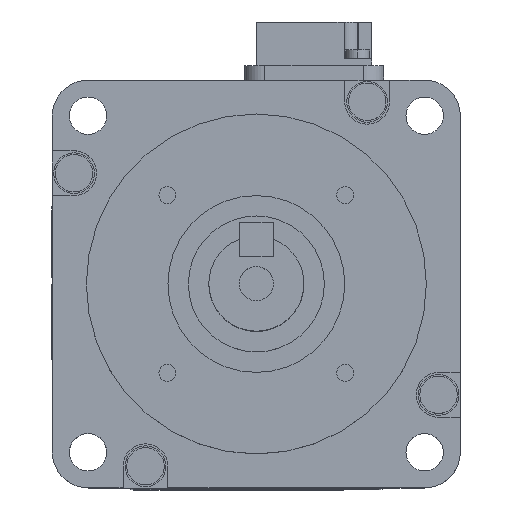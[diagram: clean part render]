
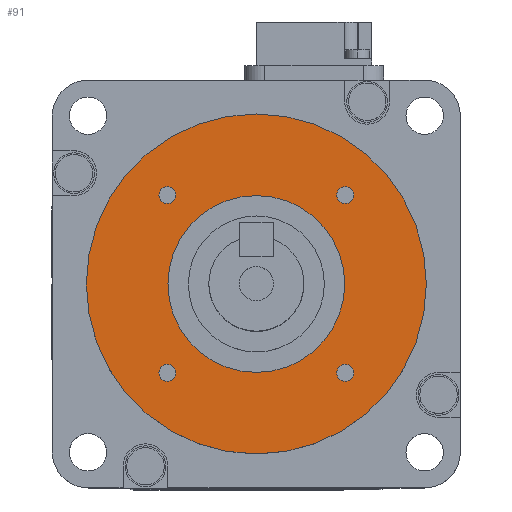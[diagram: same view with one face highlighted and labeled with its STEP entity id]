
A CAD part, top view. The second image highlights one B-rep face of the part: STEP entity #91.
In plain terms, the highlighted planar face has unit normal (0, 0, 1).
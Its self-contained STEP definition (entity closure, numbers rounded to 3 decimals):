
#37 = ORIENTED_EDGE ( 'NONE', *, *, #38, .F. ) ;
#38 = EDGE_CURVE ( 'NONE', #15011, #14934, #3901, .T. ) ;
#68 = EDGE_CURVE ( 'NONE', #15122, #14968, #3910, .T. ) ;
#91 = ADVANCED_FACE ( 'NONE', ( #3987, #3986, #3985, #3984, #3983, #3982 ), #3981, .T. ) ;
#157 = EDGE_LOOP ( 'NONE', ( #1706, #1353 ) ) ;
#174 = ORIENTED_EDGE ( 'NONE', *, *, #5115, .T. ) ;
#175 = ORIENTED_EDGE ( 'NONE', *, *, #176, .T. ) ;
#176 = EDGE_CURVE ( 'NONE', #5119, #5116, #4151, .T. ) ;
#188 = EDGE_LOOP ( 'NONE', ( #175, #174 ) ) ;
#199 = ORIENTED_EDGE ( 'NONE', *, *, #15314, .F. ) ;
#299 = DIRECTION ( 'NONE',  ( 0., 1., 0. ) ) ;
#300 = DIRECTION ( 'NONE',  ( 0., 0., 1. ) ) ;
#301 = CARTESIAN_POINT ( 'NONE',  ( -13.081, 13.081, 3. ) ) ;
#302 = AXIS2_PLACEMENT_3D ( 'NONE', #301, #300, #299 ) ;
#303 = CIRCLE ( 'NONE', #302, 1.25 ) ;
#921 = ORIENTED_EDGE ( 'NONE', *, *, #928, .F. ) ;
#928 = EDGE_CURVE ( 'NONE', #15340, #16107, #4252, .T. ) ;
#931 = ORIENTED_EDGE ( 'NONE', *, *, #16218, .F. ) ;
#948 = EDGE_LOOP ( 'NONE', ( #921, #199 ) ) ;
#1141 = ORIENTED_EDGE ( 'NONE', *, *, #1151, .F. ) ;
#1151 = EDGE_CURVE ( 'NONE', #16089, #15226, #4290, .T. ) ;
#1181 = ORIENTED_EDGE ( 'NONE', *, *, #15020, .F. ) ;
#1182 = EDGE_LOOP ( 'NONE', ( #1141, #931 ) ) ;
#1330 = EDGE_CURVE ( 'NONE', #5192, #5215, #4566, .T. ) ;
#1353 = ORIENTED_EDGE ( 'NONE', *, *, #1330, .F. ) ;
#1706 = ORIENTED_EDGE ( 'NONE', *, *, #5217, .F. ) ;
#3897 = DIRECTION ( 'NONE',  ( -1., 0., 0. ) ) ;
#3898 = DIRECTION ( 'NONE',  ( 0., 0., 1. ) ) ;
#3899 = CARTESIAN_POINT ( 'NONE',  ( -13.081, -13.081, 3. ) ) ;
#3900 = AXIS2_PLACEMENT_3D ( 'NONE', #3899, #3898, #3897 ) ;
#3901 = CIRCLE ( 'NONE', #3900, 1.25 ) ;
#3907 = DIRECTION ( 'NONE',  ( 0., 0., 1. ) ) ;
#3908 = CARTESIAN_POINT ( 'NONE',  ( 13.081, -13.081, 3. ) ) ;
#3909 = AXIS2_PLACEMENT_3D ( 'NONE', #3908, #3907, #3969 ) ;
#3910 = CIRCLE ( 'NONE', #3909, 1.25 ) ;
#3969 = DIRECTION ( 'NONE',  ( 0., -1., 0. ) ) ;
#3977 = DIRECTION ( 'NONE',  ( 1., 0., 0. ) ) ;
#3978 = DIRECTION ( 'NONE',  ( 0., 0., 1. ) ) ;
#3979 = CARTESIAN_POINT ( 'NONE',  ( 0., 25., 3. ) ) ;
#3980 = AXIS2_PLACEMENT_3D ( 'NONE', #3979, #3978, #3977 ) ;
#3981 = PLANE ( 'NONE',  #3980 ) ;
#3982 = FACE_OUTER_BOUND ( 'NONE', #157, .T. ) ;
#3983 = FACE_BOUND ( 'NONE', #188, .T. ) ;
#3984 = FACE_BOUND ( 'NONE', #948, .T. ) ;
#3985 = FACE_BOUND ( 'NONE', #1182, .T. ) ;
#3986 = FACE_BOUND ( 'NONE', #16416, .T. ) ;
#3987 = FACE_BOUND ( 'NONE', #16483, .T. ) ;
#4147 = DIRECTION ( 'NONE',  ( -1., 0., 0. ) ) ;
#4148 = DIRECTION ( 'NONE',  ( 0., 0., -1. ) ) ;
#4149 = CARTESIAN_POINT ( 'NONE',  ( 0., 0., 3. ) ) ;
#4150 = AXIS2_PLACEMENT_3D ( 'NONE', #4149, #4148, #4147 ) ;
#4151 = CIRCLE ( 'NONE', #4150, 13. ) ;
#4248 = DIRECTION ( 'NONE',  ( 1., 0., 0. ) ) ;
#4249 = DIRECTION ( 'NONE',  ( 0., 0., 1. ) ) ;
#4250 = CARTESIAN_POINT ( 'NONE',  ( 13.081, 13.081, 3. ) ) ;
#4251 = AXIS2_PLACEMENT_3D ( 'NONE', #4250, #4249, #4248 ) ;
#4252 = CIRCLE ( 'NONE', #4251, 1.25 ) ;
#4286 = DIRECTION ( 'NONE',  ( 0., 1., 0. ) ) ;
#4287 = DIRECTION ( 'NONE',  ( 0., 0., 1. ) ) ;
#4288 = CARTESIAN_POINT ( 'NONE',  ( -13.081, 13.081, 3. ) ) ;
#4289 = AXIS2_PLACEMENT_3D ( 'NONE', #4288, #4287, #4286 ) ;
#4290 = CIRCLE ( 'NONE', #4289, 1.25 ) ;
#4562 = DIRECTION ( 'NONE',  ( -1., 0., 0. ) ) ;
#4563 = DIRECTION ( 'NONE',  ( 0., 0., -1. ) ) ;
#4564 = CARTESIAN_POINT ( 'NONE',  ( 0., 0., 3. ) ) ;
#4565 = AXIS2_PLACEMENT_3D ( 'NONE', #4564, #4563, #4562 ) ;
#4566 = CIRCLE ( 'NONE', #4565, 25. ) ;
#5115 = EDGE_CURVE ( 'NONE', #5116, #5119, #9585, .T. ) ;
#5116 = VERTEX_POINT ( 'NONE', #9579 ) ;
#5119 = VERTEX_POINT ( 'NONE', #9644 ) ;
#5192 = VERTEX_POINT ( 'NONE', #9732 ) ;
#5215 = VERTEX_POINT ( 'NONE', #9758 ) ;
#5217 = EDGE_CURVE ( 'NONE', #5215, #5192, #9757, .T. ) ;
#9579 = CARTESIAN_POINT ( 'NONE',  ( 13., 0., 3. ) ) ;
#9581 = DIRECTION ( 'NONE',  ( -1., 0., 0. ) ) ;
#9582 = DIRECTION ( 'NONE',  ( 0., 0., -1. ) ) ;
#9583 = CARTESIAN_POINT ( 'NONE',  ( 0., 0., 3. ) ) ;
#9584 = AXIS2_PLACEMENT_3D ( 'NONE', #9583, #9582, #9581 ) ;
#9585 = CIRCLE ( 'NONE', #9584, 13. ) ;
#9644 = CARTESIAN_POINT ( 'NONE',  ( -13., 0., 3. ) ) ;
#9732 = CARTESIAN_POINT ( 'NONE',  ( 25., 0., 3. ) ) ;
#9753 = DIRECTION ( 'NONE',  ( -1., 0., 0. ) ) ;
#9754 = DIRECTION ( 'NONE',  ( 0., 0., -1. ) ) ;
#9755 = CARTESIAN_POINT ( 'NONE',  ( 0., 0., 3. ) ) ;
#9756 = AXIS2_PLACEMENT_3D ( 'NONE', #9755, #9754, #9753 ) ;
#9757 = CIRCLE ( 'NONE', #9756, 25. ) ;
#9758 = CARTESIAN_POINT ( 'NONE',  ( -25., 0., 3. ) ) ;
#12297 = CARTESIAN_POINT ( 'NONE',  ( -14.331, -13.081, 3. ) ) ;
#12362 = CARTESIAN_POINT ( 'NONE',  ( 11.831, -13.081, 3. ) ) ;
#12470 = DIRECTION ( 'NONE',  ( -1., 0., 0. ) ) ;
#12471 = DIRECTION ( 'NONE',  ( 0., 0., 1. ) ) ;
#12472 = CARTESIAN_POINT ( 'NONE',  ( -13.081, -13.081, 3. ) ) ;
#12473 = AXIS2_PLACEMENT_3D ( 'NONE', #12472, #12471, #12470 ) ;
#12474 = CIRCLE ( 'NONE', #12473, 1.25 ) ;
#12486 = CARTESIAN_POINT ( 'NONE',  ( -11.831, -13.081, 3. ) ) ;
#12617 = DIRECTION ( 'NONE',  ( 0., -1., 0. ) ) ;
#12618 = DIRECTION ( 'NONE',  ( 0., 0., 1. ) ) ;
#12619 = CARTESIAN_POINT ( 'NONE',  ( 13.081, -13.081, 3. ) ) ;
#12620 = AXIS2_PLACEMENT_3D ( 'NONE', #12619, #12618, #12617 ) ;
#12621 = CIRCLE ( 'NONE', #12620, 1.25 ) ;
#12637 = CARTESIAN_POINT ( 'NONE',  ( 14.331, -13.081, 3. ) ) ;
#12839 = CARTESIAN_POINT ( 'NONE',  ( -14.331, 13.081, 3. ) ) ;
#12999 = DIRECTION ( 'NONE',  ( 1., 0., 0. ) ) ;
#13000 = DIRECTION ( 'NONE',  ( 0., 0., 1. ) ) ;
#13001 = AXIS2_PLACEMENT_3D ( 'NONE', #13007, #13000, #12999 ) ;
#13002 = CIRCLE ( 'NONE', #13001, 1.25 ) ;
#13007 = CARTESIAN_POINT ( 'NONE',  ( 13.081, 13.081, 3. ) ) ;
#13034 = CARTESIAN_POINT ( 'NONE',  ( 14.331, 13.081, 3. ) ) ;
#14293 = CARTESIAN_POINT ( 'NONE',  ( -11.831, 13.081, 3. ) ) ;
#14342 = CARTESIAN_POINT ( 'NONE',  ( 11.831, 13.081, 3. ) ) ;
#14934 = VERTEX_POINT ( 'NONE', #12297 ) ;
#14968 = VERTEX_POINT ( 'NONE', #12362 ) ;
#15011 = VERTEX_POINT ( 'NONE', #12486 ) ;
#15020 = EDGE_CURVE ( 'NONE', #14934, #15011, #12474, .T. ) ;
#15097 = EDGE_CURVE ( 'NONE', #14968, #15122, #12621, .T. ) ;
#15122 = VERTEX_POINT ( 'NONE', #12637 ) ;
#15226 = VERTEX_POINT ( 'NONE', #12839 ) ;
#15314 = EDGE_CURVE ( 'NONE', #16107, #15340, #13002, .T. ) ;
#15340 = VERTEX_POINT ( 'NONE', #13034 ) ;
#16089 = VERTEX_POINT ( 'NONE', #14293 ) ;
#16107 = VERTEX_POINT ( 'NONE', #14342 ) ;
#16218 = EDGE_CURVE ( 'NONE', #15226, #16089, #303, .T. ) ;
#16416 = EDGE_LOOP ( 'NONE', ( #37, #1181 ) ) ;
#16457 = ORIENTED_EDGE ( 'NONE', *, *, #15097, .F. ) ;
#16469 = ORIENTED_EDGE ( 'NONE', *, *, #68, .F. ) ;
#16483 = EDGE_LOOP ( 'NONE', ( #16469, #16457 ) ) ;
